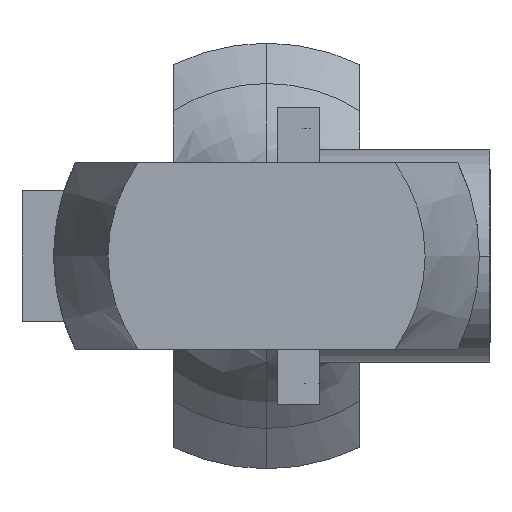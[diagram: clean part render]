
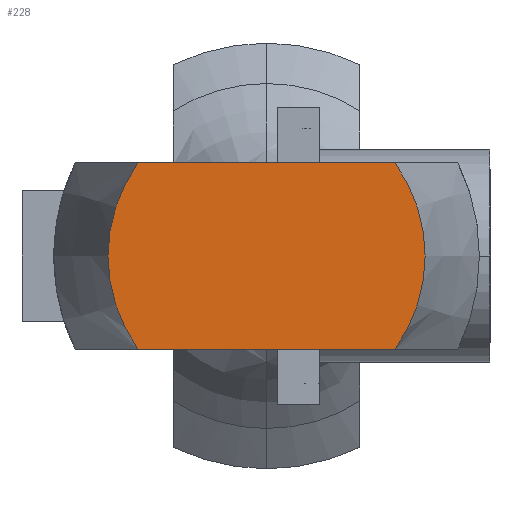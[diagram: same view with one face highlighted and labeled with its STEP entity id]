
A CAD part, left-side view. The second image highlights one B-rep face of the part: STEP entity #228.
In plain terms, the highlighted planar face has unit normal (-1, 0, 0).
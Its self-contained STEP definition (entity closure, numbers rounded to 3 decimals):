
#228=ADVANCED_FACE('',(#512),#513,.T.);
#512=FACE_OUTER_BOUND('',#863,.T.);
#513=PLANE('',#864);
#863=EDGE_LOOP('',(#1485,#1486,#1487,#1488));
#864=AXIS2_PLACEMENT_3D('',#1489,#1490,#1491);
#1485=ORIENTED_EDGE('',*,*,#2197,.T.);
#1486=ORIENTED_EDGE('',*,*,#2202,.T.);
#1487=ORIENTED_EDGE('',*,*,#2181,.T.);
#1488=ORIENTED_EDGE('',*,*,#2203,.T.);
#1489=CARTESIAN_POINT('',(0.,0.,-4.732));
#1490=DIRECTION('',(-1.0,0.,0.));
#1491=DIRECTION('',(0.,0.,-1.0));
#2181=EDGE_CURVE('',#2670,#2668,#2671,.T.);
#2197=EDGE_CURVE('',#2691,#2689,#2692,.T.);
#2202=EDGE_CURVE('',#2689,#2670,#2697,.T.);
#2203=EDGE_CURVE('',#2668,#2691,#2698,.T.);
#2668=VERTEX_POINT('',#3886);
#2670=VERTEX_POINT('',#3897);
#2671=LINE('',#3898,#3899);
#2689=VERTEX_POINT('',#4024);
#2691=VERTEX_POINT('',#4035);
#2692=LINE('',#4036,#4037);
#2697=CIRCLE('',#4061,9.464);
#2698=CIRCLE('',#4062,9.464);
#3886=CARTESIAN_POINT('',(0.,7.662,5.556));
#3897=CARTESIAN_POINT('',(0.,-7.662,5.556));
#3898=CARTESIAN_POINT('',(0.0,0.,5.556));
#3899=VECTOR('',#4632,25.4);
#4024=CARTESIAN_POINT('',(0.0,-7.662,-5.556));
#4035=CARTESIAN_POINT('',(0.0,7.662,-5.556));
#4036=CARTESIAN_POINT('',(0.,0.,-5.556));
#4037=VECTOR('',#4653,25.4);
#4061=AXIS2_PLACEMENT_3D('',#4655,#4656,#4657);
#4062=AXIS2_PLACEMENT_3D('',#4658,#4659,#4660);
#4632=DIRECTION('',(0.,1.0,0.));
#4653=DIRECTION('',(0.,-1.0,0.));
#4655=CARTESIAN_POINT('',(0.0,0.0,0.0));
#4656=DIRECTION('',(-1.0,0.,0.));
#4657=DIRECTION('',(0.,0.,-1.0));
#4658=CARTESIAN_POINT('',(0.0,0.0,0.0));
#4659=DIRECTION('',(-1.0,0.,0.));
#4660=DIRECTION('',(0.,0.,-1.0));
